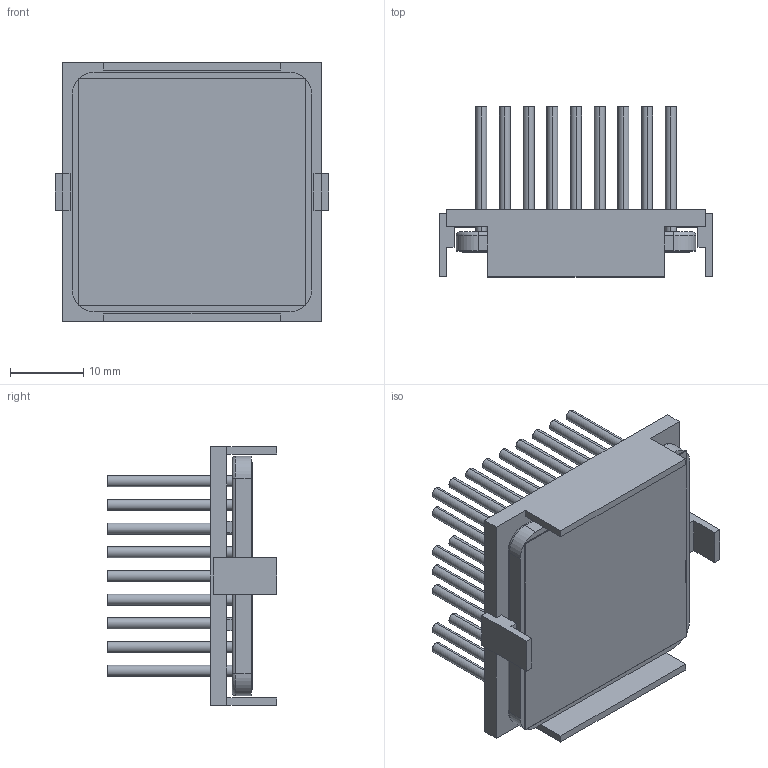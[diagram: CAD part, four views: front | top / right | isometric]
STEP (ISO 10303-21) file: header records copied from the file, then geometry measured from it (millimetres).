
FILE_DESCRIPTION (( 'STEP AP214' ), '1' );
FILE_NAME ('INM33002-20P-2.6Y.STEP', '2023-03-02T20:08:36', ( '' ), ( '' ), 'SwSTEP 2.0', 'SolidWorks 2020', '' );
FILE_SCHEMA (( 'AUTOMOTIVE_DESIGN' ));
Length unit declared in the file: inch
Products named in the file (1): INM33002-20P-2.6Y
Bounding box: 37.2 x 23.1 x 35.2 mm (x, y, z)
Volume: 6633.7 mm3; surface area: 12772.4 mm2
Topology: 3 solids, 3 shells, 301 faces, 658 edges, 436 vertices
Faces by surface type: cylinder 154, plane 143, torus 4
Entity records: 12339 total; most frequent: DIRECTION 1574, CARTESIAN_POINT 1396, ORIENTED_EDGE 1316, EDGE_CURVE 658, AXIS2_PLACEMENT_3D 614, VERTEX_POINT 436, EDGE_LOOP 376, LINE 346
